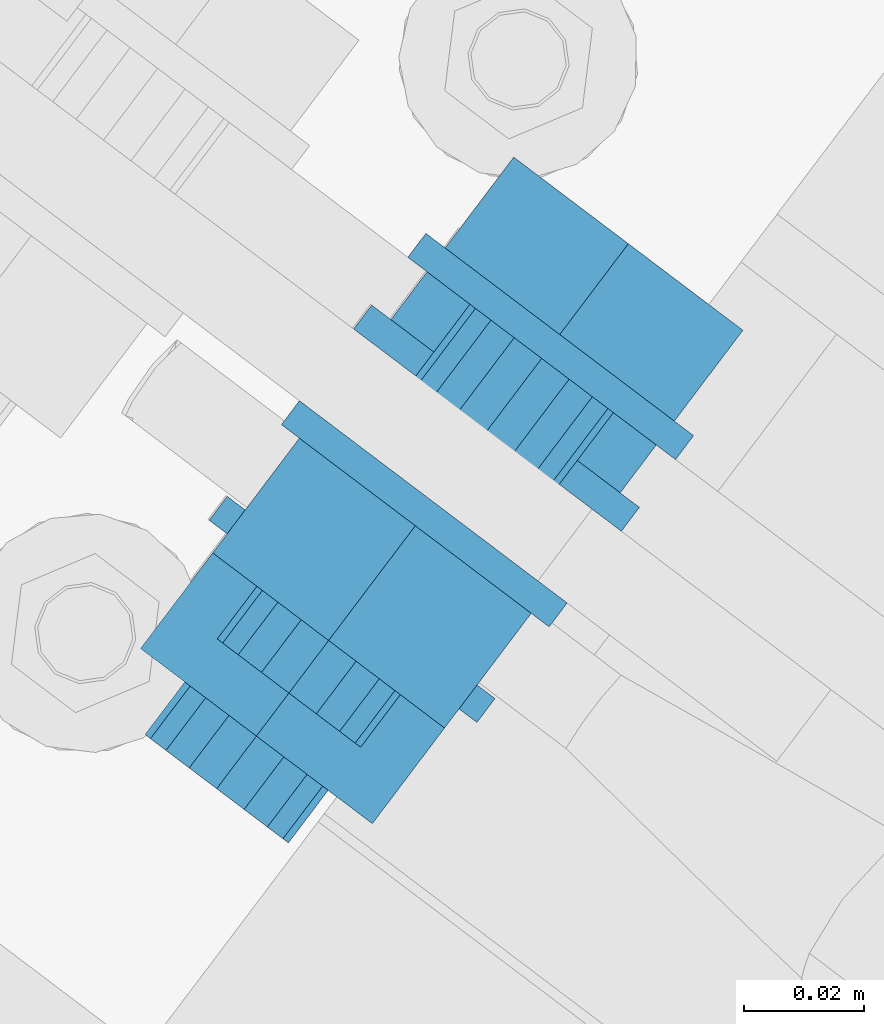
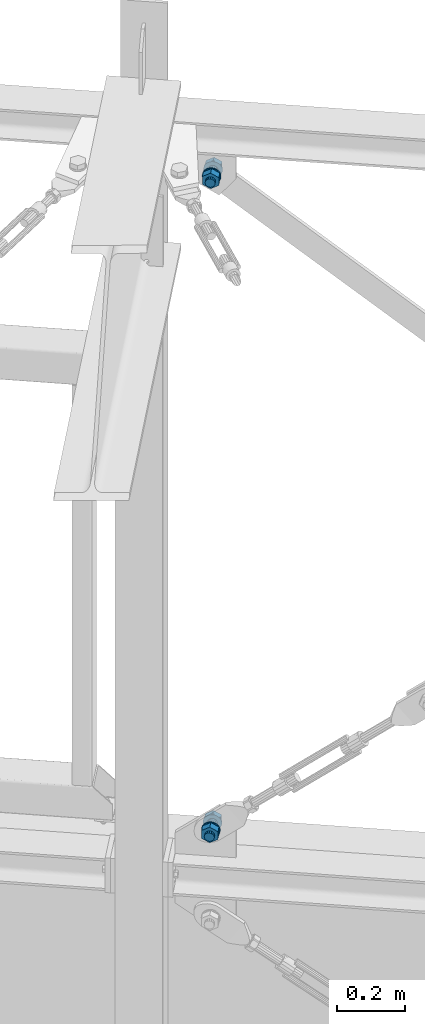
# One storey, part 231 of 476: 2 mechanical fasteners.
"""IFC2X3 building model written with IfcOpenShell, lengths in millimetres."""

from ifc_helpers import new_model, entity, si_unit, converted_unit, origin_with_axes, place, context, project, spatial, faceted_brep, element, save


model = new_model("IFC2X3")

# Units and contexts
model_context = context("Model", 3, precision=1e-09, world=origin_with_axes())
ifc_project = project(units=[si_unit("LENGTHUNIT", "METRE", prefix="MILLI"), si_unit("AREAUNIT", "SQUARE_METRE"), si_unit("VOLUMEUNIT", "CUBIC_METRE"), converted_unit("PLANEANGLEUNIT", "DEGREE", entity("IfcPlaneAngleMeasure", 0.01745329), si_unit("PLANEANGLEUNIT", "RADIAN"), dimensions=[0, 0, 0, 0, 0, 0, 0])], contexts=[model_context])

# Site, building, storey
site_placement = place(None, origin_with_axes())
site = spatial("IfcSite", under=ifc_project, at=site_placement, Name="mKR Teilneubau & Sanierung BA1 - Ostfildern", CompositionType="ELEMENT")
building_placement = place(site_placement, origin_with_axes())
building = spatial("IfcBuilding", under=site, at=building_placement, Name="Struktur 1", CompositionType="ELEMENT")
storey_placement = place(building_placement, origin_with_axes())
storey = spatial("IfcBuildingStorey", under=building, at=storey_placement, Name="Default Storey", CompositionType="ELEMENT", Elevation=0.0)

# Mechanical fasteners
mechanical_fastener_1_placement = place(None, origin_with_axes())
element("IfcMechanicalFastener", 1, at=mechanical_fastener_1_placement, inside=storey, ObjectType="-", NominalDiameter=30.0, NominalLength=75.0, context=model_context, shape_type="Brep", body=[
    faceted_brep([(13989.619508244, 6981.049975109, 5405.518008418), (13986.605835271, 6977.060266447, 5405.518008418), (13987.035137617, 6976.735987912, 5410.980537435), (13990.04881059, 6980.725696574, 5410.980537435), (13988.306546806, 6975.775614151, 5416.233144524), (13991.32021978, 6979.765322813, 5416.233144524), (13990.371203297, 6974.216051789, 5421.073974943), (13993.384876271, 6978.205760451, 5421.073974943), (13993.149763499, 6972.117233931, 5425.316998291), (13996.163436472, 6976.106942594, 5425.316998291), (13996.5354489, 6969.559816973, 5428.799157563), (13999.549121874, 6973.549525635, 5428.799157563), (14000.398149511, 6966.642081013, 5431.386635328), (14003.411822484, 6970.631789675, 5431.386635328), (14004.589423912, 6963.476153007, 5432.979996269), (14007.603096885, 6967.465861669, 5432.979996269), (14008.948203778, 6960.183697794, 5433.518008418), (14011.961876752, 6964.173406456, 5433.518008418), (14013.306983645, 6956.891242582, 5432.979996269), (14016.320656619, 6960.880951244, 5432.979996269), (14017.498258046, 6953.725314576, 5431.386635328), (14020.51193102, 6957.715023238, 5431.386635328), (14021.360958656, 6950.807578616, 5428.799157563), (14024.37463163, 6954.797287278, 5428.799157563), (14024.746644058, 6948.250161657, 5425.316998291), (14027.760317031, 6952.239870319, 5425.316998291), (14027.525204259, 6946.1513438, 5421.073974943), (14030.538877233, 6950.141052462, 5421.073974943), (14029.58986075, 6944.591781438, 5416.233144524), (14032.603533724, 6948.5814901, 5416.233144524), (14030.86126994, 6943.631407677, 5410.980537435), (14033.874942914, 6947.621116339, 5410.980537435), (14031.290572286, 6943.307129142, 5405.518008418), (14034.30424526, 6947.296837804, 5405.518008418), (14030.86126994, 6943.631407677, 5400.055479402), (14033.874942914, 6947.621116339, 5400.055479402), (14029.58986075, 6944.591781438, 5394.802872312), (14032.603533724, 6948.5814901, 5394.802872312), (14027.525204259, 6946.1513438, 5389.962041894), (14030.538877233, 6950.141052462, 5389.962041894), (14024.746644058, 6948.250161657, 5385.719018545), (14027.760317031, 6952.239870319, 5385.719018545), (14021.360958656, 6950.807578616, 5382.236859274), (14024.37463163, 6954.797287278, 5382.236859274), (14017.498258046, 6953.725314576, 5379.649381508), (14020.51193102, 6957.715023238, 5379.649381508), (14013.306983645, 6956.891242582, 5378.056020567), (14016.320656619, 6960.880951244, 5378.056020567), (14008.948203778, 6960.183697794, 5377.518008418), (14011.961876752, 6964.173406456, 5377.518008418), (14004.589423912, 6963.476153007, 5378.056020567), (14007.603096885, 6967.465861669, 5378.056020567), (14000.398149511, 6966.642081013, 5379.649381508), (14003.411822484, 6970.631789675, 5379.649381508), (13996.5354489, 6969.559816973, 5382.236859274), (13999.549121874, 6973.549525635, 5382.236859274), (13993.149763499, 6972.117233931, 5385.719018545), (13996.163436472, 6976.106942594, 5385.719018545), (13990.371203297, 6974.216051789, 5389.962041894), (13993.384876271, 6978.205760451, 5389.962041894), (13988.306546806, 6975.775614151, 5394.802872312), (13991.32021978, 6979.765322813, 5394.802872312), (13987.035137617, 6976.735987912, 5400.055479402), (13990.04881059, 6980.725696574, 5400.055479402)], [[[0, 1, 2, 3]], [[3, 2, 4, 5]], [[5, 4, 6, 7]], [[7, 6, 8, 9]], [[9, 8, 10, 11]], [[11, 10, 12, 13]], [[13, 12, 14, 15]], [[15, 14, 16, 17]], [[17, 16, 18, 19]], [[19, 18, 20, 21]], [[21, 20, 22, 23]], [[23, 22, 24, 25]], [[25, 24, 26, 27]], [[27, 26, 28, 29]], [[29, 28, 30, 31]], [[31, 30, 32, 33]], [[33, 32, 34, 35]], [[35, 34, 36, 37]], [[37, 36, 38, 39]], [[39, 38, 40, 41]], [[41, 40, 42, 43]], [[43, 42, 44, 45]], [[45, 44, 46, 47]], [[47, 46, 48, 49]], [[49, 48, 50, 51]], [[51, 50, 52, 53]], [[53, 52, 54, 55]], [[55, 54, 56, 57]], [[57, 56, 58, 59]], [[59, 58, 60, 61]], [[61, 60, 62, 63]], [[63, 62, 1, 0]], [[0, 3, 5, 7, 9, 11, 13, 15, 17, 19, 21, 23, 25, 27, 29, 31, 33, 35, 37, 39, 41, 43, 45, 47, 49, 51, 53, 55, 57, 59, 61, 63]], [[1, 62, 60, 58, 56, 54, 52, 50, 48, 46, 44, 42, 40, 38, 36, 34, 32, 30, 28, 26, 24, 22, 20, 18, 16, 14, 12, 10, 8, 6, 4, 2]]]),
    faceted_brep([(14031.09325855, 6949.722294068, 5419.360508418), (14042.545215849, 6964.883186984, 5419.360508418), (14023.413834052, 6979.334299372, 5433.203008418), (14011.961876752, 6964.173406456, 5433.203008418), (14004.282452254, 6993.785411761, 5419.360508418), (13992.830494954, 6978.624518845, 5419.360508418), (14004.282452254, 6993.785411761, 5391.675508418), (13992.830494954, 6978.624518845, 5391.675508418), (14023.413834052, 6979.334299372, 5377.833008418), (14011.961876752, 6964.173406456, 5377.833008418), (14042.545215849, 6964.883186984, 5391.675508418), (14031.09325855, 6949.722294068, 5391.675508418)], [[[0, 1, 2, 3]], [[3, 2, 4, 5]], [[5, 4, 6, 7]], [[7, 6, 8, 9]], [[9, 8, 10, 11]], [[11, 10, 1, 0]], [[4, 2, 1, 10, 8, 6]], [[0, 3, 5, 7, 9, 11]]]),
    faceted_brep([(13996.979077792, 6969.224716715, 5405.518008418), (13978.896994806, 6945.286404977, 5405.518008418), (13979.808090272, 6944.598198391, 5411.258259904), (13997.890173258, 6968.536510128, 5411.258259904), (13982.402670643, 6942.638351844, 5416.124610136), (14000.484753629, 6966.576663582, 5416.124610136), (13986.285734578, 6939.705234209, 5419.376201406), (14004.367817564, 6963.643545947, 5419.376201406), (13990.866120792, 6936.245386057, 5420.518008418), (14008.948203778, 6960.183697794, 5420.518008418), (13995.446507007, 6932.785537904, 5419.376201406), (14013.528589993, 6956.723849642, 5419.376201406), (13999.329570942, 6929.852420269, 5416.124610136), (14017.411653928, 6953.790732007, 5416.124610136), (14001.924151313, 6927.892573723, 5411.258259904), (14020.006234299, 6951.83088546, 5411.258259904), (14002.835246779, 6927.204367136, 5405.518008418), (14020.917329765, 6951.142678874, 5405.518008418), (14001.924151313, 6927.892573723, 5399.777756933), (14020.006234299, 6951.83088546, 5399.777756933), (13999.329570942, 6929.852420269, 5394.9114067), (14017.411653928, 6953.790732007, 5394.9114067), (13995.446507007, 6932.785537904, 5391.65981543), (14013.528589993, 6956.723849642, 5391.65981543), (13990.866120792, 6936.245386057, 5390.518008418), (14008.948203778, 6960.183697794, 5390.518008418), (13986.285734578, 6939.705234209, 5391.65981543), (14004.367817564, 6963.643545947, 5391.65981543), (13982.402670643, 6942.638351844, 5394.9114067), (14000.484753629, 6966.576663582, 5394.9114067), (13979.808090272, 6944.598198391, 5399.777756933), (13997.890173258, 6968.536510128, 5399.777756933)], [[[0, 1, 2, 3]], [[3, 2, 4, 5]], [[5, 4, 6, 7]], [[7, 6, 8, 9]], [[9, 8, 10, 11]], [[11, 10, 12, 13]], [[13, 12, 14, 15]], [[15, 14, 16, 17]], [[17, 16, 18, 19]], [[19, 18, 20, 21]], [[21, 20, 22, 23]], [[23, 22, 24, 25]], [[25, 24, 26, 27]], [[27, 26, 28, 29]], [[29, 28, 30, 31]], [[31, 30, 1, 0]], [[0, 3, 5, 7, 9, 11, 13, 15, 17, 19, 21, 23, 25, 27, 29, 31]], [[1, 30, 28, 26, 24, 22, 20, 18, 16, 14, 12, 10, 8, 6, 4, 2]]]),
    faceted_brep([(13968.523752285, 6953.121954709, 5405.518008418), (13965.510079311, 6949.132246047, 5405.518008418), (13965.939381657, 6948.807967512, 5410.980537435), (13968.953054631, 6952.797676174, 5410.980537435), (13967.210790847, 6947.847593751, 5416.233144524), (13970.22446382, 6951.837302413, 5416.233144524), (13969.275447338, 6946.288031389, 5421.073974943), (13972.289120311, 6950.277740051, 5421.073974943), (13972.054007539, 6944.189213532, 5425.316998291), (13975.067680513, 6948.178922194, 5425.316998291), (13975.439692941, 6941.631796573, 5428.799157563), (13978.453365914, 6945.621505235, 5428.799157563), (13979.302393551, 6938.714060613, 5431.386635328), (13982.316066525, 6942.703769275, 5431.386635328), (13983.493667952, 6935.548132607, 5432.979996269), (13986.507340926, 6939.53784127, 5432.979996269), (13987.852447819, 6932.255677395, 5433.518008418), (13990.866120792, 6936.245386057, 5433.518008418), (13992.211227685, 6928.963222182, 5432.979996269), (13995.224900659, 6932.952930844, 5432.979996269), (13996.402502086, 6925.797294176, 5431.386635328), (13999.41617506, 6929.787002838, 5431.386635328), (14000.265202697, 6922.879558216, 5428.799157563), (14003.27887567, 6926.869266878, 5428.799157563), (14003.650888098, 6920.322141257, 5425.316998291), (14006.664561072, 6924.31184992, 5425.316998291), (14006.4294483, 6918.2233234, 5421.073974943), (14009.443121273, 6922.213032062, 5421.073974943), (14008.494104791, 6916.663761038, 5416.233144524), (14011.507777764, 6920.6534697, 5416.233144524), (14009.76551398, 6915.703387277, 5410.980537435), (14012.779186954, 6919.693095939, 5410.980537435), (14010.194816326, 6915.379108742, 5405.518008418), (14013.2084893, 6919.368817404, 5405.518008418), (14009.76551398, 6915.703387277, 5400.055479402), (14012.779186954, 6919.693095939, 5400.055479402), (14008.494104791, 6916.663761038, 5394.802872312), (14011.507777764, 6920.6534697, 5394.802872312), (14006.4294483, 6918.2233234, 5389.962041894), (14009.443121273, 6922.213032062, 5389.962041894), (14003.650888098, 6920.322141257, 5385.719018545), (14006.664561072, 6924.31184992, 5385.719018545), (14000.265202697, 6922.879558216, 5382.236859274), (14003.27887567, 6926.869266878, 5382.236859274), (13996.402502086, 6925.797294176, 5379.649381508), (13999.41617506, 6929.787002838, 5379.649381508), (13992.211227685, 6928.963222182, 5378.056020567), (13995.224900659, 6932.952930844, 5378.056020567), (13987.852447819, 6932.255677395, 5377.518008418), (13990.866120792, 6936.245386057, 5377.518008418), (13983.493667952, 6935.548132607, 5378.056020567), (13986.507340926, 6939.53784127, 5378.056020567), (13979.302393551, 6938.714060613, 5379.649381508), (13982.316066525, 6942.703769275, 5379.649381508), (13975.439692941, 6941.631796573, 5382.236859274), (13978.453365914, 6945.621505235, 5382.236859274), (13972.054007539, 6944.189213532, 5385.719018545), (13975.067680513, 6948.178922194, 5385.719018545), (13969.275447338, 6946.288031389, 5389.962041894), (13972.289120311, 6950.277740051, 5389.962041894), (13967.210790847, 6947.847593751, 5394.802872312), (13970.22446382, 6951.837302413, 5394.802872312), (13965.939381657, 6948.807967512, 5400.055479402), (13968.953054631, 6952.797676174, 5400.055479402)], [[[0, 1, 2, 3]], [[3, 2, 4, 5]], [[5, 4, 6, 7]], [[7, 6, 8, 9]], [[9, 8, 10, 11]], [[11, 10, 12, 13]], [[13, 12, 14, 15]], [[15, 14, 16, 17]], [[17, 16, 18, 19]], [[19, 18, 20, 21]], [[21, 20, 22, 23]], [[23, 22, 24, 25]], [[25, 24, 26, 27]], [[27, 26, 28, 29]], [[29, 28, 30, 31]], [[31, 30, 32, 33]], [[33, 32, 34, 35]], [[35, 34, 36, 37]], [[37, 36, 38, 39]], [[39, 38, 40, 41]], [[41, 40, 42, 43]], [[43, 42, 44, 45]], [[45, 44, 46, 47]], [[47, 46, 48, 49]], [[49, 48, 50, 51]], [[51, 50, 52, 53]], [[53, 52, 54, 55]], [[55, 54, 56, 57]], [[57, 56, 58, 59]], [[59, 58, 60, 61]], [[61, 60, 62, 63]], [[63, 62, 1, 0]], [[0, 3, 5, 7, 9, 11, 13, 15, 17, 19, 21, 23, 25, 27, 29, 31, 33, 35, 37, 39, 41, 43, 45, 47, 49, 51, 53, 55, 57, 59, 61, 63]], [[1, 62, 60, 58, 56, 54, 52, 50, 48, 46, 44, 42, 40, 38, 36, 34, 32, 30, 28, 26, 24, 22, 20, 18, 16, 14, 12, 10, 8, 6, 4, 2]]]),
    faceted_brep([(13992.735876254, 6898.489538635, 5419.518008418), (14007.201506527, 6917.640140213, 5419.518008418), (13987.852447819, 6932.255677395, 5433.518008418), (13973.386817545, 6913.105075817, 5433.518008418), (13968.50338911, 6946.871214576, 5419.518008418), (13954.037758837, 6927.720612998, 5419.518008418), (13968.50338911, 6946.871214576, 5391.518008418), (13954.037758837, 6927.720612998, 5391.518008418), (13987.852447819, 6932.255677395, 5377.518008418), (13973.386817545, 6913.105075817, 5377.518008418), (14007.201506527, 6917.640140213, 5391.518008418), (13992.735876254, 6898.489538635, 5391.518008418)], [[[0, 1, 2, 3]], [[3, 2, 4, 5]], [[5, 4, 6, 7]], [[7, 6, 8, 9]], [[9, 8, 10, 11]], [[11, 10, 1, 0]], [[4, 2, 1, 10, 8, 6]], [[0, 3, 5, 7, 9, 11]]]),
    faceted_brep([(13961.417736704, 6922.146154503, 5405.518008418), (13954.787656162, 6913.368795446, 5405.518008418), (13955.698751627, 6912.680588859, 5411.258259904), (13962.328832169, 6921.457947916, 5411.258259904), (13958.293331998, 6910.720742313, 5416.124610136), (13964.92341254, 6919.49810137, 5416.124610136), (13962.176395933, 6907.787624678, 5419.376201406), (13968.806476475, 6916.564983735, 5419.376201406), (13966.756782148, 6904.327776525, 5420.518008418), (13973.38686269, 6913.105135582, 5420.518008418), (13971.337168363, 6900.867928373, 5419.376201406), (13977.967248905, 6909.645287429, 5419.376201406), (13975.220232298, 6897.934810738, 5416.124610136), (13981.85031284, 6906.712169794, 5416.124610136), (13977.814812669, 6895.974964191, 5411.258259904), (13984.444893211, 6904.752323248, 5411.258259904), (13978.725908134, 6895.286757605, 5405.518008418), (13985.355988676, 6904.064116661, 5405.518008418), (13977.814812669, 6895.974964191, 5399.777756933), (13984.444893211, 6904.752323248, 5399.777756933), (13975.220232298, 6897.934810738, 5394.9114067), (13981.85031284, 6906.712169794, 5394.9114067), (13971.337168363, 6900.867928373, 5391.65981543), (13977.967248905, 6909.645287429, 5391.65981543), (13966.756782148, 6904.327776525, 5390.518008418), (13973.38686269, 6913.105135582, 5390.518008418), (13962.176395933, 6907.787624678, 5391.65981543), (13968.806476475, 6916.564983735, 5391.65981543), (13958.293331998, 6910.720742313, 5394.9114067), (13964.92341254, 6919.49810137, 5394.9114067), (13955.698751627, 6912.680588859, 5399.777756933), (13962.328832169, 6921.457947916, 5399.777756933)], [[[0, 1, 2, 3]], [[3, 2, 4, 5]], [[5, 4, 6, 7]], [[7, 6, 8, 9]], [[9, 8, 10, 11]], [[11, 10, 12, 13]], [[13, 12, 14, 15]], [[15, 14, 16, 17]], [[17, 16, 18, 19]], [[19, 18, 20, 21]], [[21, 20, 22, 23]], [[23, 22, 24, 25]], [[25, 24, 26, 27]], [[27, 26, 28, 29]], [[29, 28, 30, 31]], [[31, 30, 1, 0]], [[0, 3, 5, 7, 9, 11, 13, 15, 17, 19, 21, 23, 25, 27, 29, 31]], [[1, 30, 28, 26, 24, 22, 20, 18, 16, 14, 12, 10, 8, 6, 4, 2]]]),
])
mechanical_fastener_2_placement = place(None, origin_with_axes())
element("IfcMechanicalFastener", 2, at=mechanical_fastener_2_placement, inside=storey, ObjectType="-", NominalDiameter=30.0, NominalLength=80.0, context=model_context, shape_type="Brep", body=[
    faceted_brep([(13977.564771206, 6965.091080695, 3078.470675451), (13980.578444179, 6969.080789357, 3078.470675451), (13981.007746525, 6968.756510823, 3073.008146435), (13977.994073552, 6964.766802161, 3073.008146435), (13982.279155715, 6967.796137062, 3067.755539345), (13979.265482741, 6963.8064284, 3067.755539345), (13984.343812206, 6966.236574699, 3062.914708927), (13981.330139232, 6962.246866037, 3062.914708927), (13987.122372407, 6964.137756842, 3058.671685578), (13984.108699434, 6960.14804818, 3058.671685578), (13990.508057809, 6961.580339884, 3055.189526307), (13987.494384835, 6957.590631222, 3055.189526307), (13994.370758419, 6958.662603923, 3052.602048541), (13991.357085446, 6954.672895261, 3052.602048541), (13998.56203282, 6955.496675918, 3051.0086876), (13995.548359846, 6951.506967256, 3051.0086876), (14002.920812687, 6952.204220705, 3050.470675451), (13999.907139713, 6948.214512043, 3050.470675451), (14007.279592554, 6948.911765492, 3051.0086876), (14004.26591958, 6944.92205683, 3051.0086876), (14011.470866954, 6945.745837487, 3052.602048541), (14008.457193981, 6941.756128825, 3052.602048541), (14015.333567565, 6942.828101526, 3055.189526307), (14012.319894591, 6938.838392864, 3055.189526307), (14018.719252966, 6940.270684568, 3058.671685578), (14015.705579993, 6936.280975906, 3058.671685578), (14021.497813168, 6938.171866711, 3062.914708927), (14018.484140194, 6934.182158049, 3062.914708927), (14023.562469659, 6936.612304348, 3067.755539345), (14020.548796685, 6932.622595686, 3067.755539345), (14024.833878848, 6935.651930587, 3073.008146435), (14021.820205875, 6931.662221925, 3073.008146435), (14025.263181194, 6935.327652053, 3078.470675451), (14022.249508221, 6931.337943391, 3078.470675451), (14024.833878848, 6935.651930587, 3083.933204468), (14021.820205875, 6931.662221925, 3083.933204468), (14023.562469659, 6936.612304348, 3089.185811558), (14020.548796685, 6932.622595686, 3089.185811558), (14021.497813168, 6938.171866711, 3094.026641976), (14018.484140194, 6934.182158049, 3094.026641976), (14018.719252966, 6940.270684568, 3098.269665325), (14015.705579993, 6936.280975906, 3098.269665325), (14015.333567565, 6942.828101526, 3101.751824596), (14012.319894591, 6938.838392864, 3101.751824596), (14011.470866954, 6945.745837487, 3104.339302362), (14008.457193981, 6941.756128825, 3104.339302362), (14007.279592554, 6948.911765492, 3105.932663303), (14004.26591958, 6944.92205683, 3105.932663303), (14002.920812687, 6952.204220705, 3106.470675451), (13999.907139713, 6948.214512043, 3106.470675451), (13998.56203282, 6955.496675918, 3105.932663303), (13995.548359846, 6951.506967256, 3105.932663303), (13994.370758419, 6958.662603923, 3104.339302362), (13991.357085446, 6954.672895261, 3104.339302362), (13990.508057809, 6961.580339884, 3101.751824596), (13987.494384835, 6957.590631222, 3101.751824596), (13987.122372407, 6964.137756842, 3098.269665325), (13984.108699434, 6960.14804818, 3098.269665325), (13984.343812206, 6966.236574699, 3094.026641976), (13981.330139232, 6962.246866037, 3094.026641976), (13982.279155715, 6967.796137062, 3089.185811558), (13979.265482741, 6963.8064284, 3089.185811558), (13981.007746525, 6968.756510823, 3083.933204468), (13977.994073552, 6964.766802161, 3083.933204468)], [[[0, 1, 2, 3]], [[3, 2, 4, 5]], [[5, 4, 6, 7]], [[7, 6, 8, 9]], [[9, 8, 10, 11]], [[11, 10, 12, 13]], [[13, 12, 14, 15]], [[15, 14, 16, 17]], [[17, 16, 18, 19]], [[19, 18, 20, 21]], [[21, 20, 22, 23]], [[23, 22, 24, 25]], [[25, 24, 26, 27]], [[27, 26, 28, 29]], [[29, 28, 30, 31]], [[31, 30, 32, 33]], [[33, 32, 34, 35]], [[35, 34, 36, 37]], [[37, 36, 38, 39]], [[39, 38, 40, 41]], [[41, 40, 42, 43]], [[43, 42, 44, 45]], [[45, 44, 46, 47]], [[47, 46, 48, 49]], [[49, 48, 50, 51]], [[51, 50, 52, 53]], [[53, 52, 54, 55]], [[55, 54, 56, 57]], [[57, 56, 58, 59]], [[59, 58, 60, 61]], [[61, 60, 62, 63]], [[63, 62, 1, 0]], [[2, 1, 62, 60, 58, 56, 54, 52, 50, 48, 46, 44, 42, 40, 38, 36, 34, 32, 30, 28, 26, 24, 22, 20, 18, 16, 14, 12, 10, 8, 6, 4]], [[63, 0, 3, 5, 7, 9, 11, 13, 15, 17, 19, 21, 23, 25, 27, 29, 31, 33, 35, 37, 39, 41, 43, 45, 47, 49, 51, 53, 55, 57, 59, 61]]]),
    faceted_brep([(14033.504151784, 6952.914001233, 3064.628175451), (14022.052194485, 6937.753108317, 3064.628175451), (14002.920812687, 6952.204220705, 3050.785675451), (14014.372769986, 6967.365113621, 3050.785675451), (13983.789430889, 6966.655333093, 3064.628175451), (13995.241388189, 6981.816226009, 3064.628175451), (13983.789430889, 6966.655333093, 3092.313175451), (13995.241388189, 6981.816226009, 3092.313175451), (14002.920812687, 6952.204220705, 3106.155675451), (14014.372769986, 6967.365113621, 3106.155675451), (14022.052194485, 6937.753108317, 3092.313175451), (14033.504151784, 6952.914001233, 3092.313175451)], [[[0, 1, 2, 3]], [[3, 2, 4, 5]], [[5, 4, 6, 7]], [[7, 6, 8, 9]], [[9, 8, 10, 11]], [[11, 10, 1, 0]], [[3, 5, 7, 9, 11, 0]], [[2, 1, 10, 8, 6, 4]]]),
    faceted_brep([(13966.842302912, 6929.327570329, 3078.470675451), (13987.938013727, 6957.255530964, 3078.470675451), (13988.849109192, 6956.567324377, 3072.730423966), (13967.753398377, 6928.639363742, 3072.730423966), (13991.443689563, 6954.607477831, 3067.864073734), (13970.347978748, 6926.679517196, 3067.864073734), (13995.326753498, 6951.674360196, 3064.612482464), (13974.231042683, 6923.746399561, 3064.612482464), (13999.907139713, 6948.214512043, 3063.470675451), (13978.811428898, 6920.286551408, 3063.470675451), (14004.487525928, 6944.75466389, 3064.612482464), (13983.391815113, 6916.826703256, 3064.612482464), (14008.370589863, 6941.821546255, 3067.864073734), (13987.274879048, 6913.893585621, 3067.864073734), (14010.965170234, 6939.861699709, 3072.730423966), (13989.869459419, 6911.933739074, 3072.730423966), (14011.876265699, 6939.173493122, 3078.470675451), (13990.780554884, 6911.245532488, 3078.470675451), (14010.965170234, 6939.861699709, 3084.210926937), (13989.869459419, 6911.933739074, 3084.210926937), (14008.370589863, 6941.821546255, 3089.077277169), (13987.274879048, 6913.893585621, 3089.077277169), (14004.487525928, 6944.75466389, 3092.328868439), (13983.391815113, 6916.826703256, 3092.328868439), (13999.907139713, 6948.214512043, 3093.470675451), (13978.811428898, 6920.286551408, 3093.470675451), (13995.326753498, 6951.674360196, 3092.328868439), (13974.231042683, 6923.746399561, 3092.328868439), (13991.443689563, 6954.607477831, 3089.077277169), (13970.347978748, 6926.679517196, 3089.077277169), (13988.849109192, 6956.567324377, 3084.210926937), (13967.753398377, 6928.639363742, 3084.210926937)], [[[0, 1, 2, 3]], [[3, 2, 4, 5]], [[5, 4, 6, 7]], [[7, 6, 8, 9]], [[9, 8, 10, 11]], [[11, 10, 12, 13]], [[13, 12, 14, 15]], [[15, 14, 16, 17]], [[17, 16, 18, 19]], [[19, 18, 20, 21]], [[21, 20, 22, 23]], [[23, 22, 24, 25]], [[25, 24, 26, 27]], [[27, 26, 28, 29]], [[29, 28, 30, 31]], [[31, 30, 1, 0]], [[2, 1, 30, 28, 26, 24, 22, 20, 18, 16, 14, 12, 10, 8, 6, 4]], [[31, 0, 3, 5, 7, 9, 11, 13, 15, 17, 19, 21, 23, 25, 27, 29]]]),
    faceted_brep([(13953.455387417, 6933.173411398, 3078.470675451), (13956.46906039, 6937.163120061, 3078.470675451), (13956.898362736, 6936.838841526, 3073.008146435), (13953.884689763, 6932.849132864, 3073.008146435), (13958.169771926, 6935.878467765, 3067.755539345), (13955.156098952, 6931.888759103, 3067.755539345), (13960.234428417, 6934.318905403, 3062.914708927), (13957.220755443, 6930.32919674, 3062.914708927), (13963.012988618, 6932.220087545, 3058.671685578), (13959.999315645, 6928.230378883, 3058.671685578), (13966.39867402, 6929.662670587, 3055.189526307), (13963.385001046, 6925.672961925, 3055.189526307), (13970.26137463, 6926.744934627, 3052.602048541), (13967.247701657, 6922.755225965, 3052.602048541), (13974.452649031, 6923.579006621, 3051.0086876), (13971.438976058, 6919.589297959, 3051.0086876), (13978.811428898, 6920.286551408, 3050.470675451), (13975.797755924, 6916.296842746, 3050.470675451), (13983.170208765, 6916.994096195, 3051.0086876), (13980.156535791, 6913.004387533, 3051.0086876), (13987.361483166, 6913.82816819, 3052.602048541), (13984.347810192, 6909.838459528, 3052.602048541), (13991.224183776, 6910.91043223, 3055.189526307), (13988.210510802, 6906.920723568, 3055.189526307), (13994.609869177, 6908.353015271, 3058.671685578), (13991.596196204, 6904.363306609, 3058.671685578), (13997.388429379, 6906.254197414, 3062.914708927), (13994.374756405, 6902.264488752, 3062.914708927), (13999.45308587, 6904.694635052, 3067.755539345), (13996.439412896, 6900.70492639, 3067.755539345), (14000.72449506, 6903.734261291, 3073.008146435), (13997.710822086, 6899.744552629, 3073.008146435), (14001.153797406, 6903.409982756, 3078.470675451), (13998.140124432, 6899.420274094, 3078.470675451), (14000.72449506, 6903.734261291, 3083.933204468), (13997.710822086, 6899.744552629, 3083.933204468), (13999.45308587, 6904.694635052, 3089.185811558), (13996.439412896, 6900.70492639, 3089.185811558), (13997.388429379, 6906.254197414, 3094.026641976), (13994.374756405, 6902.264488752, 3094.026641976), (13994.609869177, 6908.353015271, 3098.269665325), (13991.596196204, 6904.363306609, 3098.269665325), (13991.224183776, 6910.91043223, 3101.751824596), (13988.210510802, 6906.920723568, 3101.751824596), (13987.361483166, 6913.82816819, 3104.339302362), (13984.347810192, 6909.838459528, 3104.339302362), (13983.170208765, 6916.994096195, 3105.932663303), (13980.156535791, 6913.004387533, 3105.932663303), (13978.811428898, 6920.286551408, 3106.470675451), (13975.797755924, 6916.296842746, 3106.470675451), (13974.452649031, 6923.579006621, 3105.932663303), (13971.438976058, 6919.589297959, 3105.932663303), (13970.26137463, 6926.744934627, 3104.339302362), (13967.247701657, 6922.755225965, 3104.339302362), (13966.39867402, 6929.662670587, 3101.751824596), (13963.385001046, 6925.672961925, 3101.751824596), (13963.012988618, 6932.220087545, 3098.269665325), (13959.999315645, 6928.230378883, 3098.269665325), (13960.234428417, 6934.318905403, 3094.026641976), (13957.220755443, 6930.32919674, 3094.026641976), (13958.169771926, 6935.878467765, 3089.185811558), (13955.156098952, 6931.888759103, 3089.185811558), (13956.898362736, 6936.838841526, 3083.933204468), (13953.884689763, 6932.849132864, 3083.933204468)], [[[0, 1, 2, 3]], [[3, 2, 4, 5]], [[5, 4, 6, 7]], [[7, 6, 8, 9]], [[9, 8, 10, 11]], [[11, 10, 12, 13]], [[13, 12, 14, 15]], [[15, 14, 16, 17]], [[17, 16, 18, 19]], [[19, 18, 20, 21]], [[21, 20, 22, 23]], [[23, 22, 24, 25]], [[25, 24, 26, 27]], [[27, 26, 28, 29]], [[29, 28, 30, 31]], [[31, 30, 32, 33]], [[33, 32, 34, 35]], [[35, 34, 36, 37]], [[37, 36, 38, 39]], [[39, 38, 40, 41]], [[41, 40, 42, 43]], [[43, 42, 44, 45]], [[45, 44, 46, 47]], [[47, 46, 48, 49]], [[49, 48, 50, 51]], [[51, 50, 52, 53]], [[53, 52, 54, 55]], [[55, 54, 56, 57]], [[57, 56, 58, 59]], [[59, 58, 60, 61]], [[61, 60, 62, 63]], [[63, 62, 1, 0]], [[2, 1, 62, 60, 58, 56, 54, 52, 50, 48, 46, 44, 42, 40, 38, 36, 34, 32, 30, 28, 26, 24, 22, 20, 18, 16, 14, 12, 10, 8, 6, 4]], [[63, 0, 3, 5, 7, 9, 11, 13, 15, 17, 19, 21, 23, 25, 27, 29, 31, 33, 35, 37, 39, 41, 43, 45, 47, 49, 51, 53, 55, 57, 59, 61]]]),
    faceted_brep([(13995.146814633, 6901.681305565, 3064.470675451), (13980.681184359, 6882.530703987, 3064.470675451), (13961.332125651, 6897.146241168, 3050.470675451), (13975.797755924, 6916.296842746, 3050.470675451), (13941.983066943, 6911.76177835, 3064.470675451), (13956.448697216, 6930.912379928, 3064.470675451), (13941.983066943, 6911.76177835, 3092.470675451), (13956.448697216, 6930.912379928, 3092.470675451), (13961.332125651, 6897.146241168, 3106.470675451), (13975.797755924, 6916.296842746, 3106.470675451), (13980.681184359, 6882.530703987, 3092.470675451), (13995.146814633, 6901.681305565, 3092.470675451)], [[[0, 1, 2, 3]], [[3, 2, 4, 5]], [[5, 4, 6, 7]], [[7, 6, 8, 9]], [[9, 8, 10, 11]], [[11, 10, 1, 0]], [[3, 5, 7, 9, 11, 0]], [[2, 1, 10, 8, 6, 4]]]),
    faceted_brep([(13942.732919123, 6897.409901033, 3078.470675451), (13949.362999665, 6906.187260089, 3078.470675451), (13950.27409513, 6905.499053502, 3072.730423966), (13943.644014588, 6896.721694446, 3072.730423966), (13952.868675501, 6903.539206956, 3067.864073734), (13946.238594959, 6894.7618479, 3067.864073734), (13956.751739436, 6900.606089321, 3064.612482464), (13950.121658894, 6891.828730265, 3064.612482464), (13961.332125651, 6897.146241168, 3063.470675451), (13954.702045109, 6888.368882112, 3063.470675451), (13965.912511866, 6893.686393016, 3064.612482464), (13959.282431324, 6884.909033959, 3064.612482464), (13969.795575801, 6890.753275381, 3067.864073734), (13963.165495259, 6881.975916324, 3067.864073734), (13972.390156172, 6888.793428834, 3072.730423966), (13965.76007563, 6880.016069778, 3072.730423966), (13973.301251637, 6888.105222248, 3078.470675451), (13966.671171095, 6879.327863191, 3078.470675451), (13972.390156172, 6888.793428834, 3084.210926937), (13965.76007563, 6880.016069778, 3084.210926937), (13969.795575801, 6890.753275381, 3089.077277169), (13963.165495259, 6881.975916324, 3089.077277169), (13965.912511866, 6893.686393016, 3092.328868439), (13959.282431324, 6884.909033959, 3092.328868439), (13961.332125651, 6897.146241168, 3093.470675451), (13954.702045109, 6888.368882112, 3093.470675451), (13956.751739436, 6900.606089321, 3092.328868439), (13950.121658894, 6891.828730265, 3092.328868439), (13952.868675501, 6903.539206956, 3089.077277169), (13946.238594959, 6894.7618479, 3089.077277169), (13950.27409513, 6905.499053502, 3084.210926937), (13943.644014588, 6896.721694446, 3084.210926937)], [[[0, 1, 2, 3]], [[3, 2, 4, 5]], [[5, 4, 6, 7]], [[7, 6, 8, 9]], [[9, 8, 10, 11]], [[11, 10, 12, 13]], [[13, 12, 14, 15]], [[15, 14, 16, 17]], [[17, 16, 18, 19]], [[19, 18, 20, 21]], [[21, 20, 22, 23]], [[23, 22, 24, 25]], [[25, 24, 26, 27]], [[27, 26, 28, 29]], [[29, 28, 30, 31]], [[31, 30, 1, 0]], [[2, 1, 30, 28, 26, 24, 22, 20, 18, 16, 14, 12, 10, 8, 6, 4]], [[31, 0, 3, 5, 7, 9, 11, 13, 15, 17, 19, 21, 23, 25, 27, 29]]]),
])

save(model, "model.ifc")
